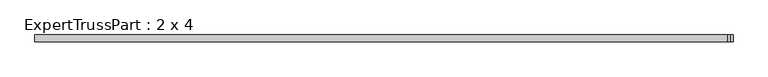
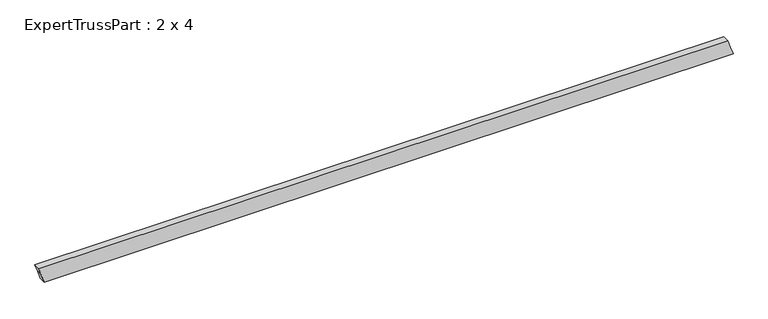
"""IFC4 building model written with IfcOpenShell, lengths in millimetres: beam geometry, ExpertTrussPart : 2 x 4."""

import ifcopenshell
import ifcopenshell.guid

model = None  # the IFC model being written
_history = None  # IfcOwnerHistory: only IFC2X3 demands one
_inside = {}  # id of a spatial element -> (the spatial element, [elements in it])
_under = {}  # id of a project, library or spatial element -> (it, [spatial elements below it])
_declared = {}  # id of a project -> (the project, [libraries it declares])
_typed = {}  # id of a type object -> (the type object, [elements of that type])
_made_of = {}  # id of a material, layer set ... -> (it, [elements and type objects made of it])


def new_model(schema):
    """Start an empty IFC model of exactly this schema.

    Asked for "IFC4X3", IfcOpenShell would pick the latest addendum, in which some entities
    have other attributes; the version numbers below select the first issue.
    IFC2X3 requires an IfcOwnerHistory on every rooted entity: one is made here for all.
    """
    global model, _history
    if schema == "IFC4X3":
        model = ifcopenshell.file(schema_version=(4, 3, 0, 0))
    else:
        model = ifcopenshell.file(schema=schema)
    _inside.clear()
    _under.clear()
    _declared.clear()
    _typed.clear()
    _made_of.clear()
    _history = None
    if model.schema == "IFC2X3":
        org = make("IfcOrganization", Name="unknown")
        user = make(
            "IfcPersonAndOrganization",
            ThePerson=make("IfcPerson", FamilyName="unknown"),
            TheOrganization=org,
        )
        app = make(
            "IfcApplication",
            ApplicationDeveloper=org,
            Version="unknown",
            ApplicationFullName="unknown",
            ApplicationIdentifier="unknown",
        )
        _history = make(
            "IfcOwnerHistory",
            OwningUser=user,
            OwningApplication=app,
            ChangeAction="ADDED",
            CreationDate=0,
        )
    return model


def make(cls, **values):
    """One entity of the class cls with the attributes given. An attribute that is None is left unset."""
    return model.create_entity(
        cls, **{name: value for name, value in values.items() if value is not None}
    )


def rooted(cls, **values):
    """An entity with a GlobalId (a new one), such as an element, a storey or a relation."""
    return make(cls, GlobalId=ifcopenshell.guid.new(), OwnerHistory=_history, **values)


def si_unit(unit_type, name, prefix=None):
    """IfcSIUnit, for example si_unit("LENGTHUNIT", "METRE", prefix="MILLI")."""
    return make("IfcSIUnit", UnitType=unit_type, Prefix=prefix, Name=name)


def assignment(units):
    """IfcUnitAssignment: the units of a project."""
    return None if units is None else make("IfcUnitAssignment", Units=units)


def point(xyz):
    """IfcCartesianPoint."""
    return None if xyz is None else make("IfcCartesianPoint", Coordinates=xyz)


def direction(xyz):
    """IfcDirection."""
    return None if xyz is None else make("IfcDirection", DirectionRatios=xyz)


def frame(location, z_axis=None, x_axis=None):
    """IfcAxis2Placement3D, a coordinate frame: its origin and axes. An axis left out is left unset."""
    return make(
        "IfcAxis2Placement3D",
        Location=point(location),
        Axis=direction(z_axis),
        RefDirection=direction(x_axis),
    )


def origin():
    """The frame at (0, 0, 0) with its axes left unset."""
    return frame((0.0, 0.0, 0.0))


def place(relative_to, where):
    """IfcLocalPlacement: puts the frame where relative to a parent placement (None: the world)."""
    return make(
        "IfcLocalPlacement", PlacementRelTo=relative_to, RelativePlacement=where
    )


def context(
    kind, dimensions, precision=None, world=None, true_north=None, identifier=None
):
    """IfcGeometricRepresentationContext, for example the 3D "Model" context."""
    return make(
        "IfcGeometricRepresentationContext",
        ContextIdentifier=identifier,
        ContextType=kind,
        CoordinateSpaceDimension=dimensions,
        Precision=precision,
        WorldCoordinateSystem=world,
        TrueNorth=true_north,
    )


def project(units=None, contexts=None):
    """IfcProject with its units and contexts."""
    return rooted(
        "IfcProject",
        Name="project",
        RepresentationContexts=contexts,
        UnitsInContext=assignment(units),
    )


def spatial(cls, under=None, at=None, **own):
    """A site, building, storey or space (cls), placed at a placement, below another one or the project."""
    s = rooted(cls, ObjectPlacement=at, **own)
    if under is not None:
        _under.setdefault(under.id(), (under, []))[1].append(s)
    return s


def polyline(points):
    """IfcPolyline through the points."""
    return make("IfcPolyline", Points=[point(p) for p in points])


def outline(outer, holes=None, kind="AREA"):
    """IfcArbitraryClosedProfileDef: a profile drawn as a closed curve; with holes, ...WithVoids."""
    if holes is None:
        return make("IfcArbitraryClosedProfileDef", ProfileType=kind, OuterCurve=outer)
    return make(
        "IfcArbitraryProfileDefWithVoids",
        ProfileType=kind,
        OuterCurve=outer,
        InnerCurves=holes,
    )


def extrude(swept, where, along, depth):
    """IfcExtrudedAreaSolid: the profile swept, set in the frame where, extruded along a direction by depth."""
    return make(
        "IfcExtrudedAreaSolid",
        SweptArea=swept,
        Position=where,
        ExtrudedDirection=direction(along),
        Depth=depth,
    )


def shape(context_of_items, identifier, shape_type, items):
    """IfcShapeRepresentation: the items that make up one representation, for example the "Body"."""
    return make(
        "IfcShapeRepresentation",
        ContextOfItems=context_of_items,
        RepresentationIdentifier=identifier,
        RepresentationType=shape_type,
        Items=items,
    )


def source(mapping_origin, context_of_items, identifier, shape_type, items):
    """IfcRepresentationMap: a shape defined once, which mapped items show again and again."""
    return make(
        "IfcRepresentationMap",
        MappingOrigin=mapping_origin,
        MappedRepresentation=shape(context_of_items, identifier, shape_type, items),
    )


def transform(
    local_origin,
    x_axis=None,
    y_axis=None,
    z_axis=None,
    scale=None,
    scale2=None,
    scale3=None,
    uniform=True,
):
    """IfcCartesianTransformationOperator3D, or its non-uniform kind. x_axis, y_axis, z_axis: its Axis1, 2, 3."""
    if uniform:
        return make(
            "IfcCartesianTransformationOperator3D",
            Axis1=direction(x_axis),
            Axis2=direction(y_axis),
            LocalOrigin=point(local_origin),
            Scale=scale,
            Axis3=direction(z_axis),
        )
    return make(
        "IfcCartesianTransformationOperator3DnonUniform",
        Axis1=direction(x_axis),
        Axis2=direction(y_axis),
        LocalOrigin=point(local_origin),
        Scale=scale,
        Axis3=direction(z_axis),
        Scale2=scale2,
        Scale3=scale3,
    )


def mapped(mapping_source, mapping_target):
    """IfcMappedItem: shows the shape of a source again, moved by a transform."""
    return make(
        "IfcMappedItem", MappingSource=mapping_source, MappingTarget=mapping_target
    )


def made_of(thing, what):
    """Note that an element or type object is made of a material, layer set ...; save() writes the relation."""
    if what is not None:
        _made_of.setdefault(what.id(), (what, []))[1].append(thing)
    return thing


def element(
    cls,
    number,
    at=None,
    inside=None,
    cuts=None,
    type_object=None,
    material=None,
    context=None,
    identifier="Body",
    shape_type=None,
    held_by="IfcProductDefinitionShape",
    body=None,
    shapes=None,
    **own,
):
    """One element of the class cls, such as IfcWall. Its Tag is "e" and its number.

    at: its placement. inside: the storey or other place that contains it. cuts: it is an
    opening in that element (IfcRelVoidsElement). A single representation is given by context,
    identifier, shape_type and body (its items); several are given by shapes. held_by: the class
    of the entity that holds the representations. save() writes the other relations.
    """
    e = rooted(cls, Tag="e%d" % number, ObjectPlacement=at, **own)
    if body is not None:
        shapes = [shape(context, identifier, shape_type, body)]
    if shapes is not None:
        e.Representation = make(held_by, Representations=shapes)
    if inside is not None:
        _inside.setdefault(inside.id(), (inside, []))[1].append(e)
    if cuts is not None:
        rooted(
            "IfcRelVoidsElement", RelatingBuildingElement=cuts, RelatedOpeningElement=e
        )
    if type_object is not None:
        _typed.setdefault(type_object.id(), (type_object, []))[1].append(e)
    return made_of(e, material)


def aggregate(whole, parts):
    """IfcRelAggregates: a whole, such as a stair, and the parts it consists of."""
    return rooted("IfcRelAggregates", RelatingObject=whole, RelatedObjects=parts)


def save(model, path):
    """Write the relations noted so far, then the file.

    IfcRelAggregates (storeys below a building ...), IfcRelContainedInSpatialStructure (elements
    in a storey), IfcRelDefinesByType, IfcRelAssociatesMaterial and IfcRelDeclares: one each for
    every whole, place, type object, material and project.
    """
    for whole, parts in _under.values():
        aggregate(whole, parts)
    for where, things in _inside.values():
        rooted(
            "IfcRelContainedInSpatialStructure",
            RelatedElements=things,
            RelatingStructure=where,
        )
    for kind, things in _typed.values():
        rooted("IfcRelDefinesByType", RelatedObjects=things, RelatingType=kind)
    for what, things in _made_of.values():
        rooted("IfcRelAssociatesMaterial", RelatedObjects=things, RelatingMaterial=what)
    for by, libraries in _declared.values():
        rooted("IfcRelDeclares", RelatingContext=by, RelatedDefinitions=libraries)
    model.write(path)


def experttrusspart_2_x_4_7bcd8695(model_context):
    return source(origin(), model_context, "Body", "SweptSolid", [
        extrude(outline(polyline([(88.9, -1938.2540842), (44.45, -1923.7460981), (0.0, -1909.238112), (0.0, 1938.2540842), (44.45, 1923.7460981), (88.9, 1909.238112), (88.9, -1938.2540842)])), frame((0.0, -19.05, 0.0), z_axis=(0.0, 1.0, 0.0), x_axis=(0.0, 0.0, 1.0)), (0.0, 0.0, 1.0), 38.1),
    ])


if __name__ == "__main__":
    model = new_model("IFC4")
    model_context = context("Model", 3, world=origin())
    ifc_project = project(units=[si_unit("LENGTHUNIT", "METRE", prefix="MILLI")], contexts=[model_context])
    site = spatial("IfcSite", under=ifc_project)
    building = spatial("IfcBuilding", under=site)
    placement = place(None, origin())
    experttrusspart_2_x_4_shape = experttrusspart_2_x_4_7bcd8695(model_context)
    element("IfcBeam", 1, ObjectType="ExpertTrussPart : 2 x 4", at=placement, inside=building, context=model_context, shape_type="MappedRepresentation", body=[
        mapped(experttrusspart_2_x_4_shape, transform((0.0, 0.0, 0.0), x_axis=(1.0, 0.0, 0.0), y_axis=(0.0, 1.0, 0.0), z_axis=(0.0, 0.0, 1.0))),
    ])
    save(model, "model.ifc")
